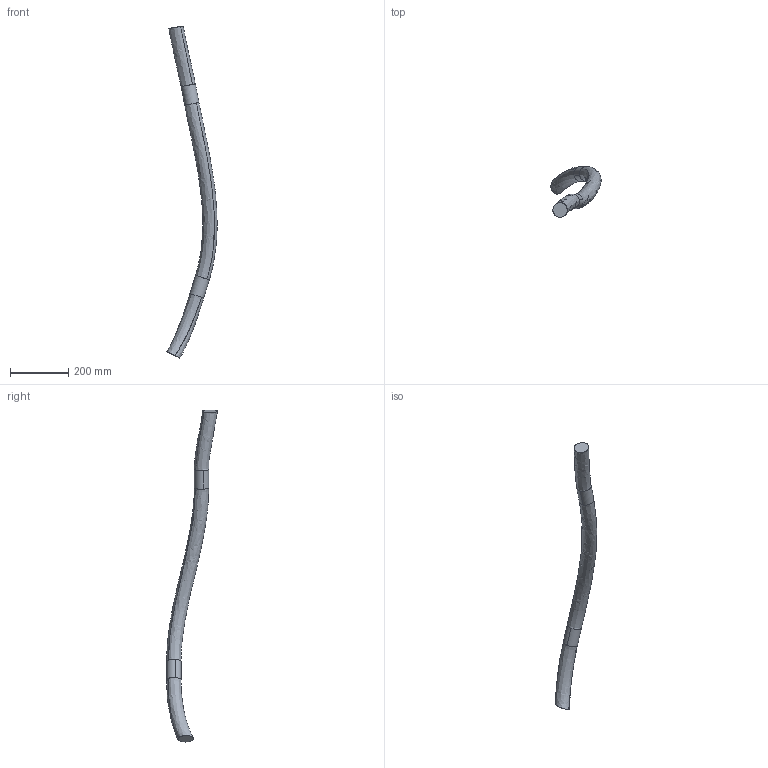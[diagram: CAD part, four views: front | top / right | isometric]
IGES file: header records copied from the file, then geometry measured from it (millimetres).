
Start section: SolidWorks IGES file using analytic representation for surfaces
Global section: file name: C:\DATA\SAP_DOC\LW\IRB 6730\IRB6730-MH3_240kg-290_OC_01_SW_J\Export\IRB6730-MH3_240kg-290_OC_01_IGES_J\IRB6730-MH3_240kg-290_OC_00_LINK02_CABLE.igs; native system: SolidWorks 2024; preprocessor: SolidWorks 2024; author: SEJOVAS3; date: 260526.113443; units: millimetre
Bounding box: 172.51 x 174.85 x 1139.52 mm (x, y, z)
Surface area: 188360.9 mm2 (no closed solid volume)
Topology: 0 solids, 0 shells, 12 faces, 267 edges, 267 vertices
Faces by surface type: bspline 8, revolution 4
